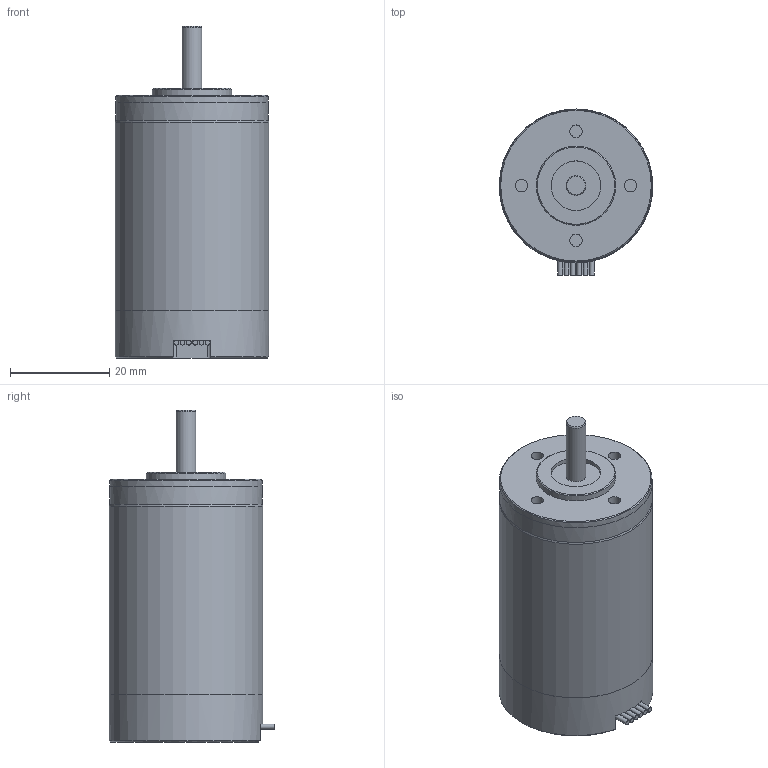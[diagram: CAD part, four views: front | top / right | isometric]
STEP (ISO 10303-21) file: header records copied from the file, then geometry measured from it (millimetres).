
FILE_DESCRIPTION(/* description */ (''),/* implementation_level */ '2;1');
FILE_NAME(/* name */ '3153K_BRC.stp',/* time_stamp */ '2013-10-21T14:56:18+02:00',/* author */ ('DR. FRITZ FAULHABER GmbH & Co. KG'),/* organization */ ('DR. FRITZ FAULHABER GmbH & Co. KG'),/* preprocessor_version */ 'ST-DEVELOPER v11',/* originating_system */ 'SIEMENS PLM Software NX 7.5',/* authorisation */ '');
FILE_SCHEMA (('AUTOMOTIVE_DESIGN { 1 0 10303 214 1 1 1 1 }'));
Length unit declared in the file: millimetre
Products named in the file (1): Alle
Bounding box: 31 x 33.45 x 67 mm (x, y, z)
Volume: 40194.9 mm3; surface area: 7189.5 mm2
Topology: 1 solids, 1 shells, 68 faces, 169 edges, 112 vertices
Faces by surface type: plane 37, cylinder 26, cone 5
Full cylindrical faces by diameter (mm): 2.5 x4, 4 x1, 10 x1, 16 x1, 30.5 x1, 30.8 x1, 30.802 x1, 31 x2
Entity records: 2521 total; most frequent: CARTESIAN_POINT 452, DIRECTION 338, ORIENTED_EDGE 296, EDGE_CURVE 148, AXIS2_PLACEMENT_3D 134, VERTEX_POINT 107, EDGE_LOOP 93, LINE 70
